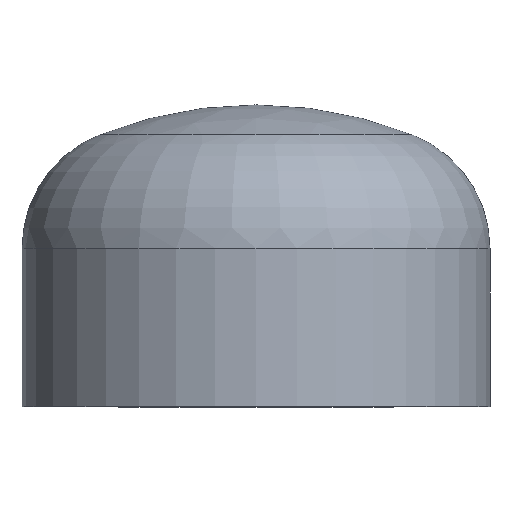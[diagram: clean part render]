
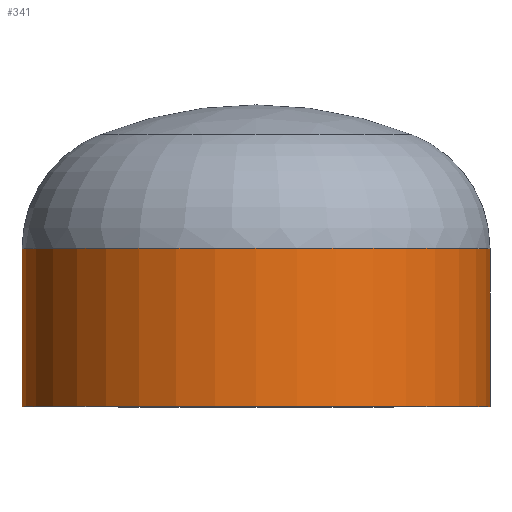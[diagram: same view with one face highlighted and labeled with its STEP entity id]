
A CAD part, top view. The second image highlights one B-rep face of the part: STEP entity #341.
In plain terms, the highlighted cylindrical face has radius 177.8 mm (diameter 355.6 mm), a partial arc.
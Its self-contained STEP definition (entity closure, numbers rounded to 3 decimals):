
#10 = VERTEX_POINT ( 'NONE', #293 ) ;
#35 = ORIENTED_EDGE ( 'NONE', *, *, #84, .T. ) ;
#45 = VECTOR ( 'NONE', #244, 1000. ) ;
#55 = ORIENTED_EDGE ( 'NONE', *, *, #91, .F. ) ;
#70 = AXIS2_PLACEMENT_3D ( 'NONE', #197, #377, #379 ) ;
#73 = AXIS2_PLACEMENT_3D ( 'NONE', #353, #352, #362 ) ;
#83 = ORIENTED_EDGE ( 'NONE', *, *, #98, .T. ) ;
#84 = EDGE_CURVE ( 'NONE', #10, #120, #131, .T. ) ;
#85 = VERTEX_POINT ( 'NONE', #267 ) ;
#91 = EDGE_CURVE ( 'NONE', #85, #115, #236, .T. ) ;
#96 = EDGE_CURVE ( 'NONE', #115, #120, #411, .T. ) ;
#98 = EDGE_CURVE ( 'NONE', #85, #10, #369, .T. ) ;
#106 = ORIENTED_EDGE ( 'NONE', *, *, #96, .F. ) ;
#110 = EDGE_LOOP ( 'NONE', ( #83, #35, #106, #55 ) ) ;
#115 = VERTEX_POINT ( 'NONE', #204 ) ;
#120 = VERTEX_POINT ( 'NONE', #322 ) ;
#131 = LINE ( 'NONE', #376, #45 ) ;
#148 = DIRECTION ( 'NONE',  ( 1., 0., 0. ) ) ;
#161 = AXIS2_PLACEMENT_3D ( 'NONE', #380, #180, #148 ) ;
#165 = VECTOR ( 'NONE', #343, 1000. ) ;
#180 = DIRECTION ( 'NONE',  ( 0., -1., 0. ) ) ;
#197 = CARTESIAN_POINT ( 'NONE',  ( 0., 120., 0. ) ) ;
#204 = CARTESIAN_POINT ( 'NONE',  ( 177.8, 0., 0. ) ) ;
#236 = LINE ( 'NONE', #264, #165 ) ;
#244 = DIRECTION ( 'NONE',  ( 0., -1., 0. ) ) ;
#264 = CARTESIAN_POINT ( 'NONE',  ( 177.8, 0., 0. ) ) ;
#267 = CARTESIAN_POINT ( 'NONE',  ( 177.8, 120., 0. ) ) ;
#293 = CARTESIAN_POINT ( 'NONE',  ( -177.8, 120., 0. ) ) ;
#322 = CARTESIAN_POINT ( 'NONE',  ( -177.8, 0., 0. ) ) ;
#341 = ADVANCED_FACE ( 'NONE', ( #378 ), #371, .T. ) ;
#343 = DIRECTION ( 'NONE',  ( 0., -1., 0. ) ) ;
#352 = DIRECTION ( 'NONE',  ( 0., -1., 0. ) ) ;
#353 = CARTESIAN_POINT ( 'NONE',  ( 0., 0., 0. ) ) ;
#362 = DIRECTION ( 'NONE',  ( 1., 0., 0. ) ) ;
#369 = CIRCLE ( 'NONE', #70, 177.8 ) ;
#371 = CYLINDRICAL_SURFACE ( 'NONE', #161, 177.8 ) ;
#376 = CARTESIAN_POINT ( 'NONE',  ( -177.8, 0., 0. ) ) ;
#377 = DIRECTION ( 'NONE',  ( 0., -1., 0. ) ) ;
#378 = FACE_OUTER_BOUND ( 'NONE', #110, .T. ) ;
#379 = DIRECTION ( 'NONE',  ( 1., 0., 0. ) ) ;
#380 = CARTESIAN_POINT ( 'NONE',  ( 0., 0., 0. ) ) ;
#411 = CIRCLE ( 'NONE', #73, 177.8 ) ;
